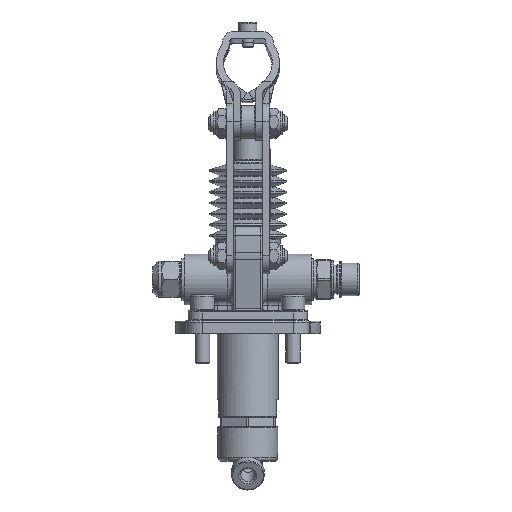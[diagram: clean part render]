
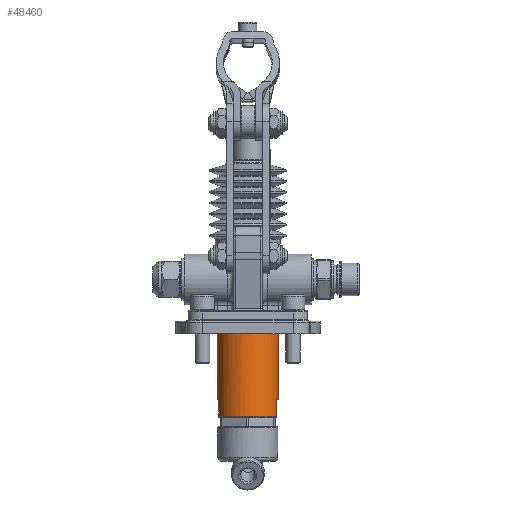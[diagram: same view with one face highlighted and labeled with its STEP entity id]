
A CAD part, left-side view. The second image highlights one B-rep face of the part: STEP entity #48460.
In plain terms, the highlighted cylindrical face has radius 17 mm (diameter 34 mm), a full revolution.
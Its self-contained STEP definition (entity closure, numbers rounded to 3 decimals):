
#47866=CARTESIAN_POINT('',(42.0,34.,1.25));
#47867=VERTEX_POINT('',#47866);
#47868=CARTESIAN_POINT('',(59.0,34.0,1.25));
#47869=DIRECTION('',(0.0,0.0,1.0));
#47870=DIRECTION('',(1.0,0.0,0.0));
#47871=AXIS2_PLACEMENT_3D('',#47868,#47869,#47870);
#47872=CIRCLE('',#47871,17.0);
#47873=EDGE_CURVE('',#47867,#47867,#47872,.T.);
#47999=CARTESIAN_POINT('',(64.745,18.,-46.5));
#48000=VERTEX_POINT('',#47999);
#48079=CARTESIAN_POINT('',(64.745,50.,-46.5));
#48080=VERTEX_POINT('',#48079);
#48094=CARTESIAN_POINT('',(59.0,34.0,-46.5));
#48095=DIRECTION('',(0.0,0.0,-1.0));
#48096=DIRECTION('',(1.0,0.0,0.0));
#48097=AXIS2_PLACEMENT_3D('',#48094,#48095,#48096);
#48098=CIRCLE('',#48097,17.0);
#48099=EDGE_CURVE('',#48080,#48000,#48098,.T.);
#48231=CARTESIAN_POINT('',(53.255,18.0,-46.5));
#48232=VERTEX_POINT('',#48231);
#48246=CARTESIAN_POINT('',(53.255,50.0,-46.5));
#48247=VERTEX_POINT('',#48246);
#48248=CARTESIAN_POINT('',(59.0,34.0,-46.5));
#48249=DIRECTION('',(0.0,0.0,-1.0));
#48250=DIRECTION('',(1.0,0.0,0.0));
#48251=AXIS2_PLACEMENT_3D('',#48248,#48249,#48250);
#48252=CIRCLE('',#48251,17.0);
#48253=EDGE_CURVE('',#48232,#48247,#48252,.T.);
#48339=CARTESIAN_POINT('',(64.745,50.,-37.5));
#48340=VERTEX_POINT('',#48339);
#48341=CARTESIAN_POINT('',(53.255,50.0,-37.5));
#48342=VERTEX_POINT('',#48341);
#48343=CARTESIAN_POINT('',(59.0,34.0,-37.5));
#48344=DIRECTION('',(0.0,0.0,1.0));
#48345=DIRECTION('',(1.0,0.0,0.0));
#48346=AXIS2_PLACEMENT_3D('',#48343,#48344,#48345);
#48347=CIRCLE('',#48346,17.0);
#48348=EDGE_CURVE('',#48340,#48342,#48347,.T.);
#48364=CARTESIAN_POINT('',(53.255,50.0,-37.5));
#48365=DIRECTION('',(0.0,0.0,-1.0));
#48366=VECTOR('',#48365,9.0);
#48367=LINE('',#48364,#48366);
#48368=EDGE_CURVE('',#48342,#48247,#48367,.T.);
#48371=CARTESIAN_POINT('',(64.745,50.,-46.5));
#48372=DIRECTION('',(0.0,0.0,1.0));
#48373=VECTOR('',#48372,9.0);
#48374=LINE('',#48371,#48373);
#48375=EDGE_CURVE('',#48080,#48340,#48374,.T.);
#48394=CARTESIAN_POINT('',(64.745,18.,-37.5));
#48395=VERTEX_POINT('',#48394);
#48396=CARTESIAN_POINT('',(64.745,18.,-37.5));
#48397=DIRECTION('',(0.0,0.0,-1.0));
#48398=VECTOR('',#48397,9.0);
#48399=LINE('',#48396,#48398);
#48400=EDGE_CURVE('',#48395,#48000,#48399,.T.);
#48402=CARTESIAN_POINT('',(53.255,18.0,-37.5));
#48403=VERTEX_POINT('',#48402);
#48410=CARTESIAN_POINT('',(53.255,18.0,-46.5));
#48411=DIRECTION('',(0.0,0.0,1.0));
#48412=VECTOR('',#48411,9.0);
#48413=LINE('',#48410,#48412);
#48414=EDGE_CURVE('',#48232,#48403,#48413,.T.);
#48431=CARTESIAN_POINT('',(59.0,34.0,-37.5));
#48432=DIRECTION('',(0.0,0.0,1.0));
#48433=DIRECTION('',(1.0,0.0,0.0));
#48434=AXIS2_PLACEMENT_3D('',#48431,#48432,#48433);
#48435=CIRCLE('',#48434,17.0);
#48436=EDGE_CURVE('',#48403,#48395,#48435,.T.);
#48442=CARTESIAN_POINT('',(59.0,34.0,-47.5));
#48443=DIRECTION('',(0.,0.0,1.0));
#48444=DIRECTION('',(1.0,0.0,0.0));
#48445=AXIS2_PLACEMENT_3D('',#48442,#48443,#48444);
#48446=CYLINDRICAL_SURFACE('',#48445,17.0);
#48447=ORIENTED_EDGE('',*,*,#48400,.T.);
#48448=ORIENTED_EDGE('',*,*,#48099,.F.);
#48449=ORIENTED_EDGE('',*,*,#48375,.T.);
#48450=ORIENTED_EDGE('',*,*,#48348,.T.);
#48451=ORIENTED_EDGE('',*,*,#48368,.T.);
#48452=ORIENTED_EDGE('',*,*,#48253,.F.);
#48453=ORIENTED_EDGE('',*,*,#48414,.T.);
#48454=ORIENTED_EDGE('',*,*,#48436,.T.);
#48455=EDGE_LOOP('',(#48447,#48448,#48449,#48450,#48451,#48452,#48453,#48454));
#48456=FACE_OUTER_BOUND('',#48455,.T.);
#48457=ORIENTED_EDGE('',*,*,#47873,.F.);
#48458=EDGE_LOOP('',(#48457));
#48459=FACE_BOUND('',#48458,.T.);
#48460=ADVANCED_FACE('',(#48456,#48459),#48446,.T.);
